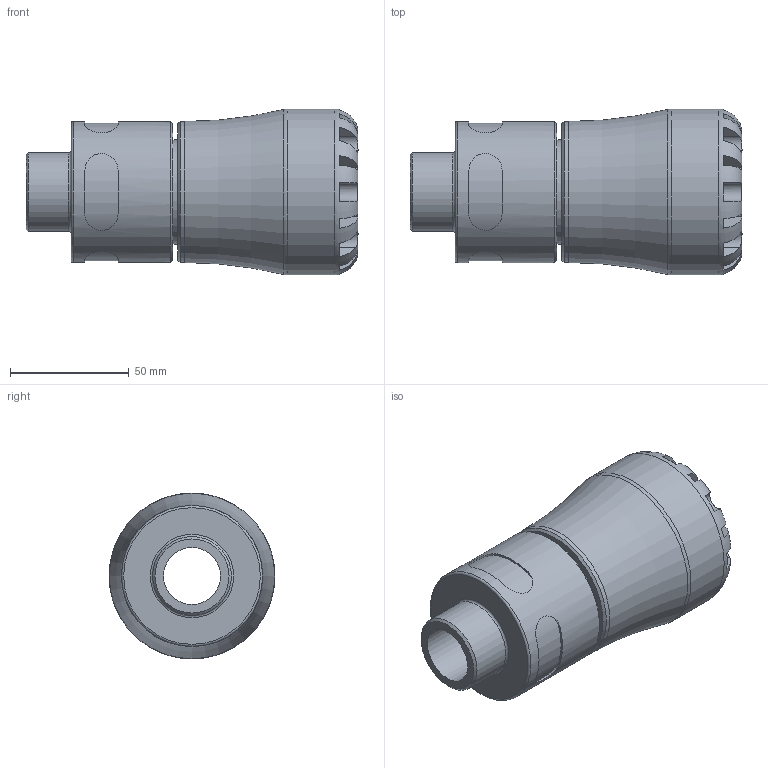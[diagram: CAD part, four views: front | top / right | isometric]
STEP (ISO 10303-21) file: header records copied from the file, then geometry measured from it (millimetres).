
FILE_DESCRIPTION(/* description */ ('PLASSON MALE ADAPTOR 40X1" SERIES 1'),/* implementation_level */ '2;1');
FILE_NAME(/* name */ 'C:\Dropbox\KIMPROJECTS-Inventor 2019\99-16-3568-Processing\S1\10N20\stp\10N200040010_10N2G0040010.stp',/* time_stamp */ '2024-03-12T13:19:40+01:00',/* author */ ('KIM'),/* organization */ (''),/* preprocessor_version */ 'ST-DEVELOPER v17.2',/* originating_system */ 'Autodesk Inventor 2019',/* authorisation */ '');
FILE_SCHEMA (('AUTOMOTIVE_DESIGN { 1 0 10303 214 3 1 1 }'));
Length unit declared in the file: millimetre
Products named in the file (1): 10N200040010_10N2G0040010
Bounding box: 140 x 70 x 70 mm (x, y, z)
Volume: 264840.2 mm3; surface area: 49249.6 mm2
Topology: 1 solids, 1 shells, 106 faces, 279 edges, 182 vertices
Faces by surface type: plane 62, cylinder 35, torus 5, cone 4
Full cylindrical faces by diameter (mm): 24 x1, 33.249 x1, 40 x1, 44 x1, 59.5 x2, 70 x1
Entity records: 4222 total; most frequent: CARTESIAN_POINT 1488, ORIENTED_EDGE 558, DIRECTION 552, EDGE_CURVE 279, AXIS2_PLACEMENT_3D 230, VERTEX_POINT 182, CIRCLE 123, EDGE_LOOP 115
